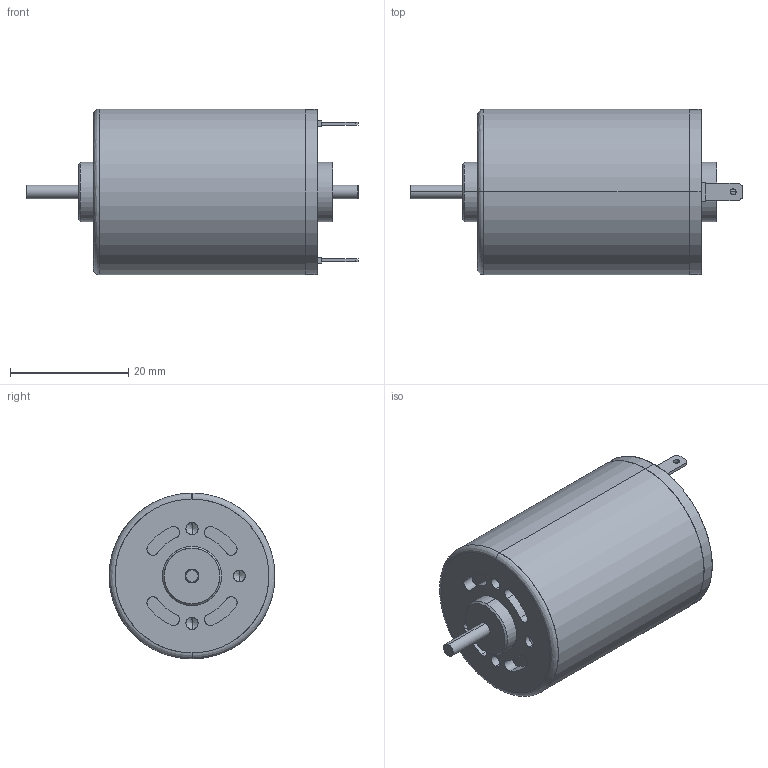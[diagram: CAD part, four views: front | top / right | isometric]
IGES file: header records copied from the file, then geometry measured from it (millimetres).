
Start section: SolidWorks IGES file using analytic representation for surfaces
Global section: file name: \\Uranus\R&D\plans\CATALOGUES\Topstock_Piece_IGES\RC170.IGS; native system: SolidWorks 2008; preprocessor: SolidWorks 2008; author: JUL; date: 090326.091305; units: millimetre
Bounding box: 56.1 x 28 x 28 mm (x, y, z)
Surface area: 5053 mm2 (no closed solid volume)
Topology: 0 solids, 0 shells, 108 faces, 1384 edges, 1376 vertices
Faces by surface type: revolution 58, bspline 50
